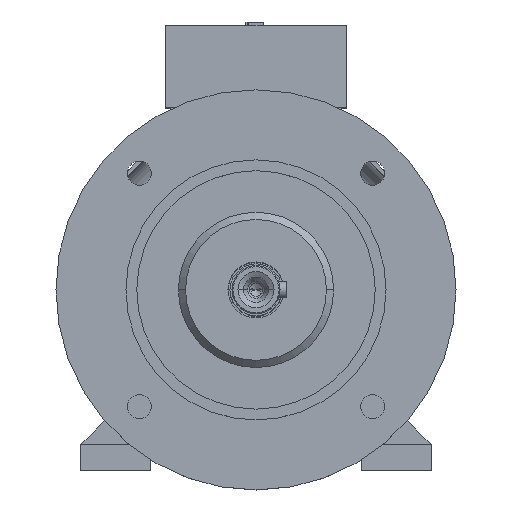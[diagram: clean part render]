
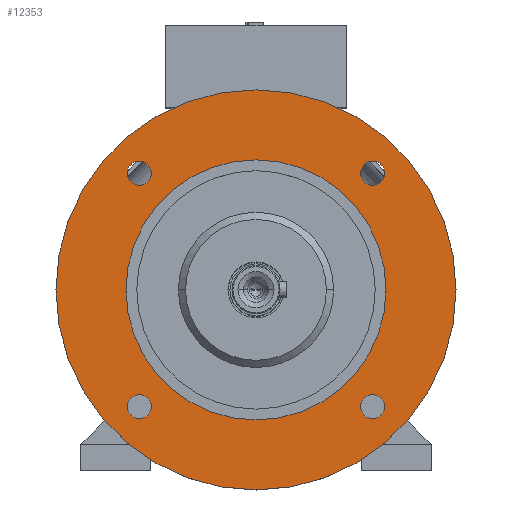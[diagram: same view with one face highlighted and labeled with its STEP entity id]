
A CAD part, top view. The second image highlights one B-rep face of the part: STEP entity #12353.
In plain terms, the highlighted planar face has unit normal (0, 0, 1).
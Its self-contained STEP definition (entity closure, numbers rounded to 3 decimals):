
#261 = AXIS2_PLACEMENT_3D ( 'NONE', #13830, #9938, #13622 ) ;
#401 = VERTEX_POINT ( 'NONE', #4424 ) ;
#414 = AXIS2_PLACEMENT_3D ( 'NONE', #12422, #13737, #9947 ) ;
#508 = VERTEX_POINT ( 'NONE', #15992 ) ;
#583 = CIRCLE ( 'NONE', #9815, 65. ) ;
#671 = CARTESIAN_POINT ( 'NONE',  ( 64.336, 58.336, 106. ) ) ;
#816 = CIRCLE ( 'NONE', #3802, 6. ) ;
#867 = AXIS2_PLACEMENT_3D ( 'NONE', #10750, #7337, #16156 ) ;
#933 = EDGE_CURVE ( 'NONE', #994, #1838, #8603, .T. ) ;
#994 = VERTEX_POINT ( 'NONE', #6272 ) ;
#1555 = CARTESIAN_POINT ( 'NONE',  ( -52.336, 58.336, 106. ) ) ;
#1826 = CIRCLE ( 'NONE', #2033, 6. ) ;
#1838 = VERTEX_POINT ( 'NONE', #9920 ) ;
#1869 = ORIENTED_EDGE ( 'NONE', *, *, #14569, .F. ) ;
#2033 = AXIS2_PLACEMENT_3D ( 'NONE', #14926, #2425, #7562 ) ;
#2275 = AXIS2_PLACEMENT_3D ( 'NONE', #15899, #12127, #14755 ) ;
#2319 = CARTESIAN_POINT ( 'NONE',  ( 64.336, -58.336, 106. ) ) ;
#2425 = DIRECTION ( 'NONE',  ( 0., 0., 1. ) ) ;
#2739 = AXIS2_PLACEMENT_3D ( 'NONE', #5851, #10692, #13262 ) ;
#2814 = EDGE_LOOP ( 'NONE', ( #5742, #15716 ) ) ;
#3482 = CIRCLE ( 'NONE', #8109, 6. ) ;
#3551 = DIRECTION ( 'NONE',  ( 0., 0., 1. ) ) ;
#3591 = EDGE_CURVE ( 'NONE', #7360, #9315, #3482, .T. ) ;
#3650 = ORIENTED_EDGE ( 'NONE', *, *, #6312, .F. ) ;
#3802 = AXIS2_PLACEMENT_3D ( 'NONE', #10993, #6004, #4740 ) ;
#4007 = EDGE_CURVE ( 'NONE', #12253, #8480, #10933, .T. ) ;
#4424 = CARTESIAN_POINT ( 'NONE',  ( -65., 0., 106. ) ) ;
#4740 = DIRECTION ( 'NONE',  ( 0., -1., 0. ) ) ;
#5136 = EDGE_LOOP ( 'NONE', ( #1869, #12008 ) ) ;
#5157 = FACE_BOUND ( 'NONE', #16100, .T. ) ;
#5224 = ORIENTED_EDGE ( 'NONE', *, *, #6094, .F. ) ;
#5742 = ORIENTED_EDGE ( 'NONE', *, *, #15817, .T. ) ;
#5814 = EDGE_CURVE ( 'NONE', #16192, #401, #583, .T. ) ;
#5851 = CARTESIAN_POINT ( 'NONE',  ( 58.336, -58.336, 106. ) ) ;
#6004 = DIRECTION ( 'NONE',  ( 0., 0., 1. ) ) ;
#6037 = CARTESIAN_POINT ( 'NONE',  ( 58.336, 58.336, 106. ) ) ;
#6094 = EDGE_CURVE ( 'NONE', #1838, #994, #11299, .T. ) ;
#6140 = AXIS2_PLACEMENT_3D ( 'NONE', #7610, #7723, #12838 ) ;
#6272 = CARTESIAN_POINT ( 'NONE',  ( -100., 0., 106. ) ) ;
#6286 = AXIS2_PLACEMENT_3D ( 'NONE', #15135, #7738, #7628 ) ;
#6295 = EDGE_CURVE ( 'NONE', #7523, #508, #10647, .T. ) ;
#6312 = EDGE_CURVE ( 'NONE', #8480, #12253, #12802, .T. ) ;
#6424 = CARTESIAN_POINT ( 'NONE',  ( 58.336, -58.336, 106. ) ) ;
#6811 = DIRECTION ( 'NONE',  ( 0., 0., 1. ) ) ;
#6918 = FACE_BOUND ( 'NONE', #7148, .T. ) ;
#7105 = FACE_BOUND ( 'NONE', #5136, .T. ) ;
#7148 = EDGE_LOOP ( 'NONE', ( #8411, #10691 ) ) ;
#7225 = CIRCLE ( 'NONE', #2275, 65. ) ;
#7337 = DIRECTION ( 'NONE',  ( 0., 0., -1. ) ) ;
#7360 = VERTEX_POINT ( 'NONE', #12636 ) ;
#7523 = VERTEX_POINT ( 'NONE', #1555 ) ;
#7562 = DIRECTION ( 'NONE',  ( -1., 0., 0. ) ) ;
#7596 = CARTESIAN_POINT ( 'NONE',  ( -52.336, -58.336, 106. ) ) ;
#7610 = CARTESIAN_POINT ( 'NONE',  ( 58.336, 58.336, 106. ) ) ;
#7628 = DIRECTION ( 'NONE',  ( -1., 0., 0. ) ) ;
#7693 = FACE_OUTER_BOUND ( 'NONE', #7967, .T. ) ;
#7723 = DIRECTION ( 'NONE',  ( 0., 0., 1. ) ) ;
#7738 = DIRECTION ( 'NONE',  ( 0., 0., 1. ) ) ;
#7750 = VERTEX_POINT ( 'NONE', #671 ) ;
#7967 = EDGE_LOOP ( 'NONE', ( #9368, #5224 ) ) ;
#8109 = AXIS2_PLACEMENT_3D ( 'NONE', #10915, #3551, #16107 ) ;
#8411 = ORIENTED_EDGE ( 'NONE', *, *, #6295, .F. ) ;
#8467 = ORIENTED_EDGE ( 'NONE', *, *, #14049, .F. ) ;
#8480 = VERTEX_POINT ( 'NONE', #10334 ) ;
#8603 = CIRCLE ( 'NONE', #867, 100. ) ;
#8836 = PLANE ( 'NONE',  #261 ) ;
#9114 = ORIENTED_EDGE ( 'NONE', *, *, #14332, .F. ) ;
#9315 = VERTEX_POINT ( 'NONE', #7596 ) ;
#9368 = ORIENTED_EDGE ( 'NONE', *, *, #933, .F. ) ;
#9402 = VERTEX_POINT ( 'NONE', #15168 ) ;
#9815 = AXIS2_PLACEMENT_3D ( 'NONE', #15698, #12039, #10683 ) ;
#9920 = CARTESIAN_POINT ( 'NONE',  ( 100., 0., 106. ) ) ;
#9938 = DIRECTION ( 'NONE',  ( 0., 0., 1. ) ) ;
#9947 = DIRECTION ( 'NONE',  ( -1., 0., 0. ) ) ;
#10024 = CIRCLE ( 'NONE', #14017, 6. ) ;
#10334 = CARTESIAN_POINT ( 'NONE',  ( 52.336, -58.336, 106. ) ) ;
#10647 = CIRCLE ( 'NONE', #6286, 6. ) ;
#10683 = DIRECTION ( 'NONE',  ( -1., 0., 0. ) ) ;
#10691 = ORIENTED_EDGE ( 'NONE', *, *, #12324, .F. ) ;
#10692 = DIRECTION ( 'NONE',  ( 0., 0., 1. ) ) ;
#10750 = CARTESIAN_POINT ( 'NONE',  ( 0., 0., 106. ) ) ;
#10915 = CARTESIAN_POINT ( 'NONE',  ( -58.336, -58.336, 106. ) ) ;
#10919 = DIRECTION ( 'NONE',  ( 0., 0., 1. ) ) ;
#10933 = CIRCLE ( 'NONE', #2739, 6. ) ;
#10993 = CARTESIAN_POINT ( 'NONE',  ( -58.336, -58.336, 106. ) ) ;
#11299 = CIRCLE ( 'NONE', #414, 100. ) ;
#11639 = AXIS2_PLACEMENT_3D ( 'NONE', #6424, #6811, #14114 ) ;
#11946 = CARTESIAN_POINT ( 'NONE',  ( 65., 0., 106. ) ) ;
#12008 = ORIENTED_EDGE ( 'NONE', *, *, #3591, .F. ) ;
#12039 = DIRECTION ( 'NONE',  ( 0., 0., -1. ) ) ;
#12127 = DIRECTION ( 'NONE',  ( 0., 0., -1. ) ) ;
#12253 = VERTEX_POINT ( 'NONE', #2319 ) ;
#12324 = EDGE_CURVE ( 'NONE', #508, #7523, #1826, .T. ) ;
#12353 = ADVANCED_FACE ( 'NONE', ( #7105, #6918, #16130, #5157, #12415, #7693 ), #8836, .T. ) ;
#12415 = FACE_BOUND ( 'NONE', #2814, .T. ) ;
#12422 = CARTESIAN_POINT ( 'NONE',  ( 0., 0., 106. ) ) ;
#12636 = CARTESIAN_POINT ( 'NONE',  ( -64.336, -58.336, 106. ) ) ;
#12802 = CIRCLE ( 'NONE', #11639, 6. ) ;
#12838 = DIRECTION ( 'NONE',  ( 0., 1., 0. ) ) ;
#13262 = DIRECTION ( 'NONE',  ( 1., 0., 0. ) ) ;
#13622 = DIRECTION ( 'NONE',  ( 1., 0., 0. ) ) ;
#13737 = DIRECTION ( 'NONE',  ( 0., 0., -1. ) ) ;
#13830 = CARTESIAN_POINT ( 'NONE',  ( 0., 100., 106. ) ) ;
#14017 = AXIS2_PLACEMENT_3D ( 'NONE', #6037, #10919, #15954 ) ;
#14049 = EDGE_CURVE ( 'NONE', #9402, #7750, #10024, .T. ) ;
#14114 = DIRECTION ( 'NONE',  ( 1., 0., 0. ) ) ;
#14332 = EDGE_CURVE ( 'NONE', #7750, #9402, #14913, .T. ) ;
#14569 = EDGE_CURVE ( 'NONE', #9315, #7360, #816, .T. ) ;
#14755 = DIRECTION ( 'NONE',  ( -1., 0., 0. ) ) ;
#14913 = CIRCLE ( 'NONE', #6140, 6. ) ;
#14926 = CARTESIAN_POINT ( 'NONE',  ( -58.336, 58.336, 106. ) ) ;
#15135 = CARTESIAN_POINT ( 'NONE',  ( -58.336, 58.336, 106. ) ) ;
#15168 = CARTESIAN_POINT ( 'NONE',  ( 52.336, 58.336, 106. ) ) ;
#15608 = EDGE_LOOP ( 'NONE', ( #9114, #8467 ) ) ;
#15698 = CARTESIAN_POINT ( 'NONE',  ( 0., 0., 106. ) ) ;
#15716 = ORIENTED_EDGE ( 'NONE', *, *, #5814, .T. ) ;
#15817 = EDGE_CURVE ( 'NONE', #401, #16192, #7225, .T. ) ;
#15858 = ORIENTED_EDGE ( 'NONE', *, *, #4007, .F. ) ;
#15899 = CARTESIAN_POINT ( 'NONE',  ( 0., 0., 106. ) ) ;
#15954 = DIRECTION ( 'NONE',  ( 0., 1., 0. ) ) ;
#15992 = CARTESIAN_POINT ( 'NONE',  ( -64.336, 58.336, 106. ) ) ;
#16100 = EDGE_LOOP ( 'NONE', ( #15858, #3650 ) ) ;
#16107 = DIRECTION ( 'NONE',  ( 0., -1., 0. ) ) ;
#16130 = FACE_BOUND ( 'NONE', #15608, .T. ) ;
#16156 = DIRECTION ( 'NONE',  ( -1., 0., 0. ) ) ;
#16192 = VERTEX_POINT ( 'NONE', #11946 ) ;
